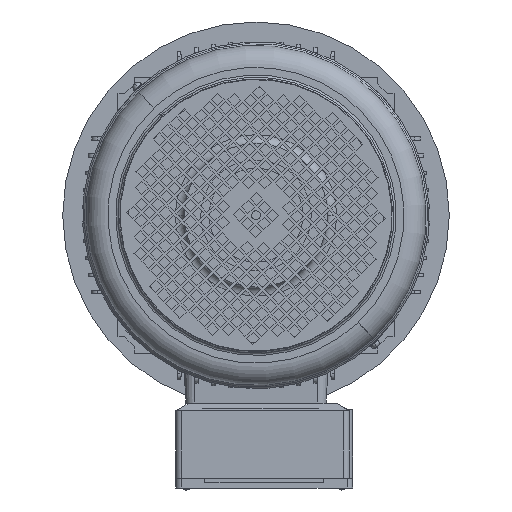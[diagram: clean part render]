
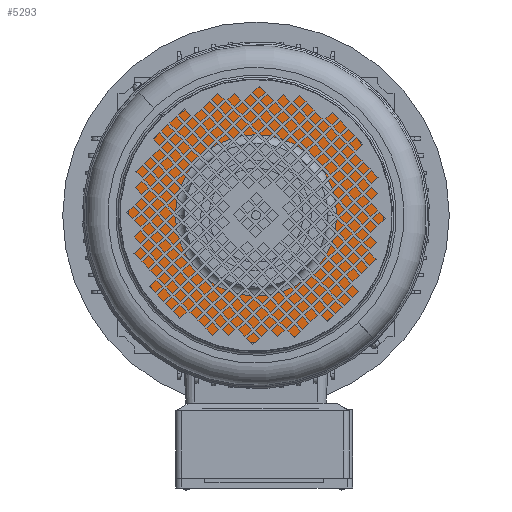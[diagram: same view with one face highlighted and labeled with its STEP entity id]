
A CAD part, front view. The second image highlights one B-rep face of the part: STEP entity #5293.
In plain terms, the highlighted planar face has unit normal (0, -1, 0).
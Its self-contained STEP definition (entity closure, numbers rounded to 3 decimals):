
#3621 = CARTESIAN_POINT ( 'NONE',  ( 0., -4.723, -115.607 ) ) ;
#5293 = ADVANCED_FACE ( 'NONE', ( #38170, #24438 ), #43646, .T. ) ;
#7127 = DIRECTION ( 'NONE',  ( 0., 0., 1. ) ) ;
#14144 = EDGE_LOOP ( 'NONE', ( #54493, #26234 ) ) ;
#14569 = VERTEX_POINT ( 'NONE', #3621 ) ;
#14572 = ORIENTED_EDGE ( 'NONE', *, *, #80590, .F. ) ;
#15665 = CARTESIAN_POINT ( 'NONE',  ( 0., -4.723, 73. ) ) ;
#17563 = DIRECTION ( 'NONE',  ( 0., 1., 0. ) ) ;
#21387 = AXIS2_PLACEMENT_3D ( 'NONE', #50443, #30597, #70850 ) ;
#24438 = FACE_OUTER_BOUND ( 'NONE', #47499, .T. ) ;
#25801 = AXIS2_PLACEMENT_3D ( 'NONE', #48926, #35008, #69616 ) ;
#26234 = ORIENTED_EDGE ( 'NONE', *, *, #84315, .T. ) ;
#26379 = DIRECTION ( 'NONE',  ( 0., 1., 0. ) ) ;
#26664 = CARTESIAN_POINT ( 'NONE',  ( 0., -4.723, 0. ) ) ;
#29174 = VERTEX_POINT ( 'NONE', #84632 ) ;
#30597 = DIRECTION ( 'NONE',  ( 0., -1., 0. ) ) ;
#32591 = AXIS2_PLACEMENT_3D ( 'NONE', #26664, #26379, #7127 ) ;
#34471 = CIRCLE ( 'NONE', #25801, 73. ) ;
#35008 = DIRECTION ( 'NONE',  ( 0., 1., 0. ) ) ;
#38170 = FACE_BOUND ( 'NONE', #14144, .T. ) ;
#41955 = CIRCLE ( 'NONE', #32591, 73. ) ;
#43646 = PLANE ( 'NONE',  #21387 ) ;
#44336 = EDGE_CURVE ( 'NONE', #14569, #44676, #86222, .T. ) ;
#44676 = VERTEX_POINT ( 'NONE', #82465 ) ;
#44682 = CARTESIAN_POINT ( 'NONE',  ( 0., -4.723, 0. ) ) ;
#45709 = ORIENTED_EDGE ( 'NONE', *, *, #44336, .F. ) ;
#47499 = EDGE_LOOP ( 'NONE', ( #14572, #45709 ) ) ;
#48926 = CARTESIAN_POINT ( 'NONE',  ( 0., -4.723, 0. ) ) ;
#50443 = CARTESIAN_POINT ( 'NONE',  ( -73., -4.723, 0. ) ) ;
#54493 = ORIENTED_EDGE ( 'NONE', *, *, #66883, .T. ) ;
#59819 = CIRCLE ( 'NONE', #60096, 115.607 ) ;
#60096 = AXIS2_PLACEMENT_3D ( 'NONE', #76537, #64169, #63881 ) ;
#63881 = DIRECTION ( 'NONE',  ( 0., 0., 1. ) ) ;
#64169 = DIRECTION ( 'NONE',  ( 0., 1., 0. ) ) ;
#66883 = EDGE_CURVE ( 'NONE', #76700, #29174, #41955, .T. ) ;
#69616 = DIRECTION ( 'NONE',  ( 0., 0., 1. ) ) ;
#70850 = DIRECTION ( 'NONE',  ( 0., 0., -1. ) ) ;
#76537 = CARTESIAN_POINT ( 'NONE',  ( 0., -4.723, 0. ) ) ;
#76700 = VERTEX_POINT ( 'NONE', #15665 ) ;
#78446 = AXIS2_PLACEMENT_3D ( 'NONE', #44682, #17563, #86096 ) ;
#80590 = EDGE_CURVE ( 'NONE', #44676, #14569, #59819, .T. ) ;
#82465 = CARTESIAN_POINT ( 'NONE',  ( 0., -4.723, 115.607 ) ) ;
#84315 = EDGE_CURVE ( 'NONE', #29174, #76700, #34471, .T. ) ;
#84632 = CARTESIAN_POINT ( 'NONE',  ( 0., -4.723, -73. ) ) ;
#86096 = DIRECTION ( 'NONE',  ( 0., 0., 1. ) ) ;
#86222 = CIRCLE ( 'NONE', #78446, 115.607 ) ;
